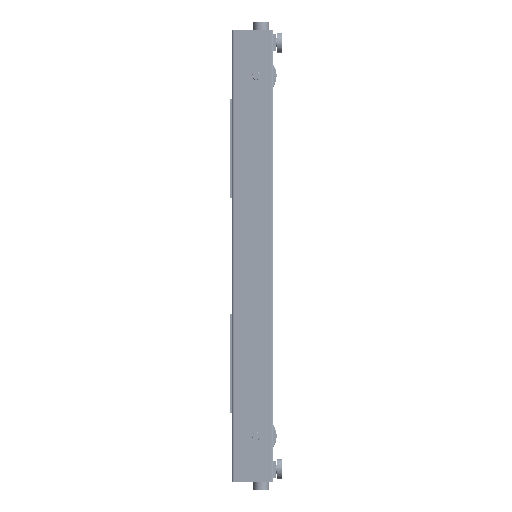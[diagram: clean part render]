
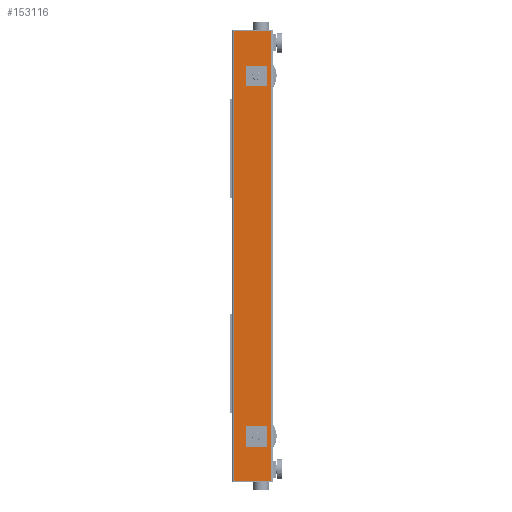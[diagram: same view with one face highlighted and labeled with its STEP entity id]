
A CAD part, left-side view. The second image highlights one B-rep face of the part: STEP entity #153116.
In plain terms, the highlighted planar face has unit normal (-1, 0, 0).
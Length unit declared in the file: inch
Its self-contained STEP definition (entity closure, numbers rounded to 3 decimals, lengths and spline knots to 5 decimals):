
#629 = CARTESIAN_POINT ( 'NONE',  ( 0., 4.109, -43.49975 ) ) ;
#4281 = DIRECTION ( 'NONE',  ( 1., 0., 0. ) ) ;
#8314 = EDGE_LOOP ( 'NONE', ( #12936, #150686, #105307, #80098 ) ) ;
#11226 = CARTESIAN_POINT ( 'NONE',  ( 0., 9.5, 54.21875 ) ) ;
#12936 = ORIENTED_EDGE ( 'NONE', *, *, #110372, .T. ) ;
#14833 = AXIS2_PLACEMENT_3D ( 'NONE', #121247, #53047, #157138 ) ;
#14894 = EDGE_CURVE ( 'NONE', #111492, #104475, #50068, .T. ) ;
#15982 = VERTEX_POINT ( 'NONE', #90472 ) ;
#16335 = DIRECTION ( 'NONE',  ( 1., 0., 0. ) ) ;
#29135 = CARTESIAN_POINT ( 'NONE',  ( 0., 4.109, -43.49975 ) ) ;
#34507 = CARTESIAN_POINT ( 'NONE',  ( 0., 9.5, -54.21875 ) ) ;
#39789 = EDGE_LOOP ( 'NONE', ( #63996, #143514 ) ) ;
#42227 = DIRECTION ( 'NONE',  ( 0., 0., -1. ) ) ;
#44954 = VECTOR ( 'NONE', #85439, 39.37008 ) ;
#45981 = DIRECTION ( 'NONE',  ( 0., -1., 0. ) ) ;
#50068 = CIRCLE ( 'NONE', #153415, 0.984 ) ;
#50166 = CARTESIAN_POINT ( 'NONE',  ( 0., 9.5, 54.21875 ) ) ;
#53047 = DIRECTION ( 'NONE',  ( 1., 0., 0. ) ) ;
#54875 = LINE ( 'NONE', #73197, #44954 ) ;
#56940 = VERTEX_POINT ( 'NONE', #71826 ) ;
#58438 = FACE_OUTER_BOUND ( 'NONE', #8314, .T. ) ;
#63996 = ORIENTED_EDGE ( 'NONE', *, *, #159821, .T. ) ;
#64439 = EDGE_CURVE ( 'NONE', #56940, #136754, #169137, .T. ) ;
#67154 = VECTOR ( 'NONE', #103527, 39.37008 ) ;
#71826 = CARTESIAN_POINT ( 'NONE',  ( 0., 4.109, -42.51575 ) ) ;
#73197 = CARTESIAN_POINT ( 'NONE',  ( 0., 0.5, -54.21875 ) ) ;
#73654 = CARTESIAN_POINT ( 'NONE',  ( 0., 0.5, 54.21875 ) ) ;
#75274 = EDGE_CURVE ( 'NONE', #137840, #15982, #125556, .T. ) ;
#80098 = ORIENTED_EDGE ( 'NONE', *, *, #138215, .T. ) ;
#85439 = DIRECTION ( 'NONE',  ( 0., -1., 0. ) ) ;
#85592 = CARTESIAN_POINT ( 'NONE',  ( 0., 4.109, -44.48375 ) ) ;
#88149 = AXIS2_PLACEMENT_3D ( 'NONE', #629, #16335, #135211 ) ;
#90239 = DIRECTION ( 'NONE',  ( 1., 0., 0. ) ) ;
#90472 = CARTESIAN_POINT ( 'NONE',  ( 0., 0.5, 54.21875 ) ) ;
#94070 = CARTESIAN_POINT ( 'NONE',  ( 0., 4.109, 44.48425 ) ) ;
#101464 = CIRCLE ( 'NONE', #14833, 0.984 ) ;
#102724 = EDGE_CURVE ( 'NONE', #15982, #146390, #125248, .T. ) ;
#103527 = DIRECTION ( 'NONE',  ( 0., 0., -1. ) ) ;
#104475 = VERTEX_POINT ( 'NONE', #161096 ) ;
#105307 = ORIENTED_EDGE ( 'NONE', *, *, #75274, .F. ) ;
#110372 = EDGE_CURVE ( 'NONE', #111840, #146390, #54875, .T. ) ;
#111108 = ORIENTED_EDGE ( 'NONE', *, *, #14894, .T. ) ;
#111324 = VECTOR ( 'NONE', #166271, 39.37008 ) ;
#111492 = VERTEX_POINT ( 'NONE', #94070 ) ;
#111840 = VERTEX_POINT ( 'NONE', #34507 ) ;
#117500 = LINE ( 'NONE', #50166, #67154 ) ;
#119901 = CARTESIAN_POINT ( 'NONE',  ( 0., 4.109, 43.50025 ) ) ;
#121247 = CARTESIAN_POINT ( 'NONE',  ( 0., 4.109, 43.50025 ) ) ;
#122332 = PLANE ( 'NONE',  #168104 ) ;
#125248 = LINE ( 'NONE', #73654, #111324 ) ;
#125556 = LINE ( 'NONE', #126425, #125831 ) ;
#125831 = VECTOR ( 'NONE', #45981, 39.37008 ) ;
#126425 = CARTESIAN_POINT ( 'NONE',  ( 0., 0.5, 54.21875 ) ) ;
#134043 = DIRECTION ( 'NONE',  ( 1., 0., 0. ) ) ;
#134862 = CARTESIAN_POINT ( 'NONE',  ( 0., 0.5, -54.21875 ) ) ;
#135211 = DIRECTION ( 'NONE',  ( 0., 0., -1. ) ) ;
#136754 = VERTEX_POINT ( 'NONE', #85592 ) ;
#137840 = VERTEX_POINT ( 'NONE', #11226 ) ;
#138215 = EDGE_CURVE ( 'NONE', #137840, #111840, #117500, .T. ) ;
#143514 = ORIENTED_EDGE ( 'NONE', *, *, #64439, .T. ) ;
#146390 = VERTEX_POINT ( 'NONE', #134862 ) ;
#148544 = FACE_BOUND ( 'NONE', #39789, .T. ) ;
#149406 = DIRECTION ( 'NONE',  ( 0., 0., -1. ) ) ;
#150686 = ORIENTED_EDGE ( 'NONE', *, *, #102724, .F. ) ;
#151118 = FACE_BOUND ( 'NONE', #165165, .T. ) ;
#151937 = ORIENTED_EDGE ( 'NONE', *, *, #156492, .T. ) ;
#153116 = ADVANCED_FACE ( 'NONE', ( #148544, #151118, #58438 ), #122332, .F. ) ;
#153415 = AXIS2_PLACEMENT_3D ( 'NONE', #119901, #90239, #169772 ) ;
#156492 = EDGE_CURVE ( 'NONE', #104475, #111492, #101464, .T. ) ;
#157138 = DIRECTION ( 'NONE',  ( 0., 0., -1. ) ) ;
#159821 = EDGE_CURVE ( 'NONE', #136754, #56940, #160688, .T. ) ;
#160688 = CIRCLE ( 'NONE', #163432, 0.984 ) ;
#161096 = CARTESIAN_POINT ( 'NONE',  ( 0., 4.109, 42.51625 ) ) ;
#163432 = AXIS2_PLACEMENT_3D ( 'NONE', #29135, #134043, #42227 ) ;
#165071 = CARTESIAN_POINT ( 'NONE',  ( 0., 0.5, 54.21875 ) ) ;
#165165 = EDGE_LOOP ( 'NONE', ( #151937, #111108 ) ) ;
#166271 = DIRECTION ( 'NONE',  ( 0., 0., -1. ) ) ;
#168104 = AXIS2_PLACEMENT_3D ( 'NONE', #165071, #4281, #149406 ) ;
#169137 = CIRCLE ( 'NONE', #88149, 0.984 ) ;
#169772 = DIRECTION ( 'NONE',  ( 0., 0., -1. ) ) ;
